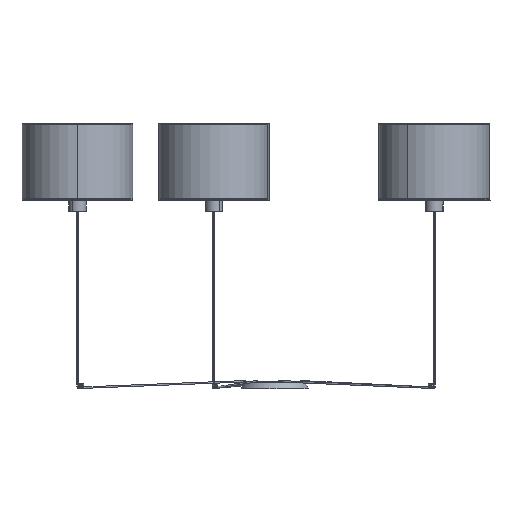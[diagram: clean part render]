
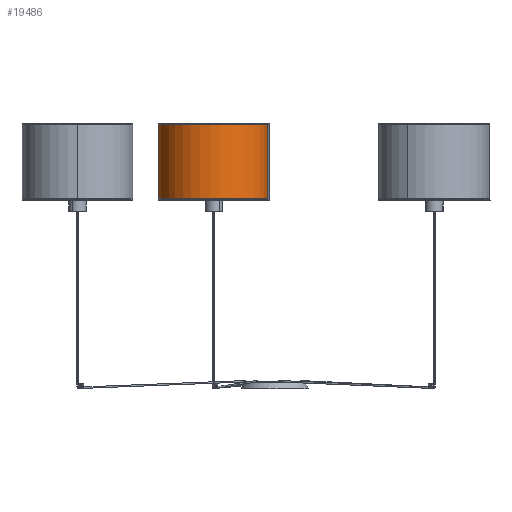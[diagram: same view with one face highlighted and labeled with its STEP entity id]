
A CAD part, left-side view. The second image highlights one B-rep face of the part: STEP entity #19486.
In plain terms, the highlighted cylindrical face has radius 224.199 mm (diameter 448.397 mm), a partial arc.
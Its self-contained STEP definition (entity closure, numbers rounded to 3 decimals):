
#3025=FACE_OUTER_BOUND('',#4361,.T.);
#4361=EDGE_LOOP('',(#17245,#17246,#17247,#17248));
#5472=LINE('',#51632,#6559);
#5473=LINE('',#51636,#6560);
#6559=VECTOR('',#26959,304.8);
#6560=VECTOR('',#26962,304.8);
#7526=CIRCLE('',#21703,224.199);
#7527=CIRCLE('',#21704,224.199);
#9127=VERTEX_POINT('',#51630);
#9128=VERTEX_POINT('',#51631);
#9129=VERTEX_POINT('',#51633);
#9130=VERTEX_POINT('',#51635);
#11841=EDGE_CURVE('',#9127,#9128,#5472,.T.);
#11843=EDGE_CURVE('',#9130,#9129,#5473,.T.);
#11845=EDGE_CURVE('',#9127,#9129,#7526,.T.);
#11846=EDGE_CURVE('',#9130,#9128,#7527,.T.);
#17245=ORIENTED_EDGE('',*,*,#11843,.T.);
#17246=ORIENTED_EDGE('',*,*,#11845,.F.);
#17247=ORIENTED_EDGE('',*,*,#11841,.T.);
#17248=ORIENTED_EDGE('',*,*,#11846,.F.);
#18297=CYLINDRICAL_SURFACE('',#21702,224.199);
#19486=ADVANCED_FACE('',(#3025),#18297,.T.);
#21702=AXIS2_PLACEMENT_3D('',#51638,#26965,#26966);
#21703=AXIS2_PLACEMENT_3D('',#51639,#26967,#26968);
#21704=AXIS2_PLACEMENT_3D('',#51640,#26969,#26970);
#26959=DIRECTION('',(0.,0.,1.));
#26962=DIRECTION('',(0.,0.,-1.));
#26965=DIRECTION('center_axis',(0.,0.,-1.));
#26966=DIRECTION('ref_axis',(-0.91,0.415,0.));
#26967=DIRECTION('center_axis',(0.,0.,-1.));
#26968=DIRECTION('ref_axis',(-0.91,0.415,0.));
#26969=DIRECTION('center_axis',(0.,0.,1.));
#26970=DIRECTION('ref_axis',(-0.91,0.415,0.));
#51630=CARTESIAN_POINT('',(79.638,841.387,664.076));
#51631=CARTESIAN_POINT('',(79.638,841.387,964.636));
#51632=CARTESIAN_POINT('',(79.638,841.387,664.076));
#51633=CARTESIAN_POINT('',(487.662,655.44,664.076));
#51635=CARTESIAN_POINT('',(487.662,655.44,964.636));
#51636=CARTESIAN_POINT('',(487.662,655.44,964.636));
#51638=CARTESIAN_POINT('Origin',(283.65,748.414,-731.713));
#51639=CARTESIAN_POINT('Origin',(283.65,748.414,664.076));
#51640=CARTESIAN_POINT('Origin',(283.65,748.414,964.636));
